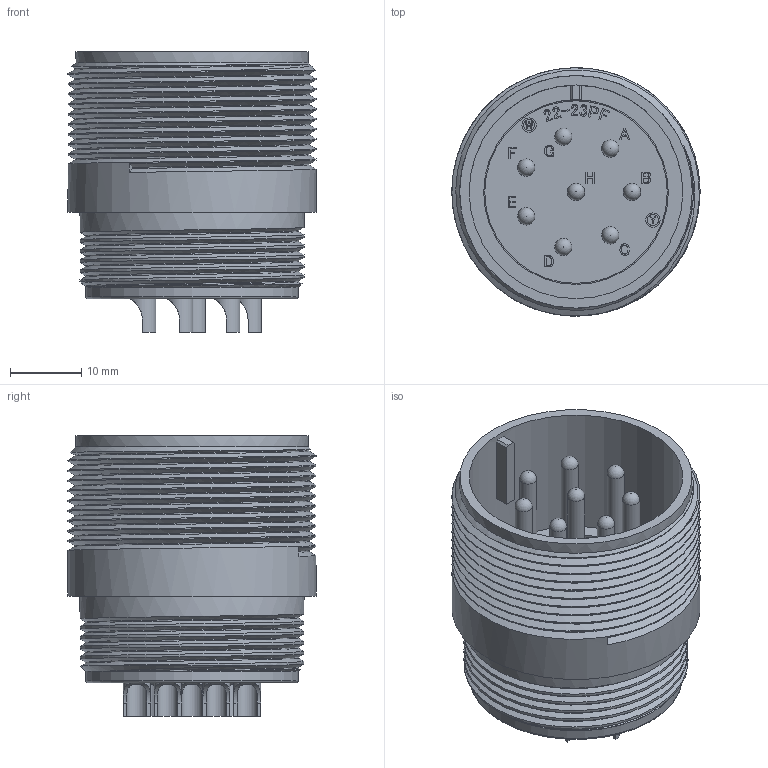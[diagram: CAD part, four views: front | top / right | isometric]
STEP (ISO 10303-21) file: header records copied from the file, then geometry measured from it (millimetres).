
FILE_DESCRIPTION (( 'STEP AP203' ), '1' );
FILE_NAME ('DMS3101A22-23P(D263).STEP', '2022-02-16T01:31:11', ( '' ), ( '' ), 'SwSTEP 2.0', 'SolidWorks 2018', '' );
FILE_SCHEMA (( 'CONFIG_CONTROL_DESIGN' ));
Length unit declared in the file: millimetre
Products named in the file (1): DMS3101A22-23P(D263)
Bounding box: 34.88 x 34.88 x 39.47 mm (x, y, z)
Volume: 15393.1 mm3; surface area: 12077.8 mm2
Topology: 1 solids, 1 shells, 761 faces, 2042 edges, 1363 vertices
Faces by surface type: plane 384, bspline 277, cylinder 89, torus 9, cone 2
Full cylindrical faces by diameter (mm): 1.6 x2, 2 x2, 2.41 x8, 2.85 x8, 3.79 x8, 3.9 x8, 7 x1, 23.16 x1, 25.65 x1, 25.94 x1, 27.43 x1, 29.9 x1, 30.03 x1, 31.49 x5, 32.68 x1, 34.88 x9
Entity records: 34121 total; most frequent: CARTESIAN_POINT 17682, ORIENTED_EDGE 3808, DIRECTION 2410, EDGE_CURVE 1904, VERTEX_POINT 1296, VECTOR 1176, LINE 1176, EDGE_LOOP 884
